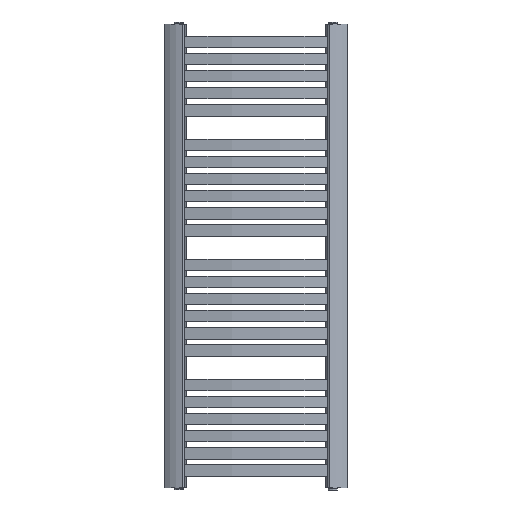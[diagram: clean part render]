
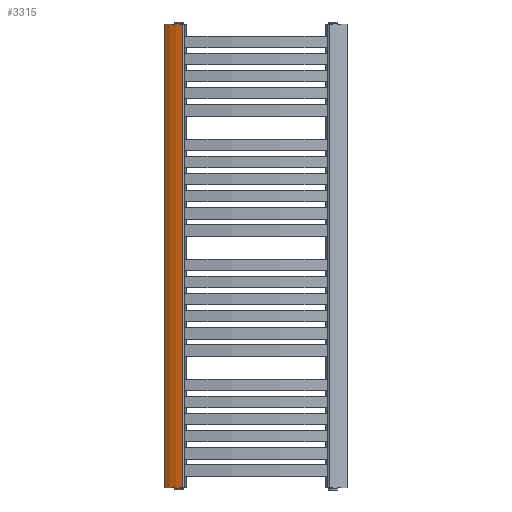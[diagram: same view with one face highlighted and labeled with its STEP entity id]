
A CAD part, left-side view. The second image highlights one B-rep face of the part: STEP entity #3315.
In plain terms, the highlighted cylindrical face has radius 101.419 mm (diameter 202.839 mm), a partial arc.
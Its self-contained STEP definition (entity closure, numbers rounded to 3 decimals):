
#257=CIRCLE('',#3551,101.419);
#258=CIRCLE('',#3552,101.419);
#304=CYLINDRICAL_SURFACE('',#3550,101.419);
#442=FACE_OUTER_BOUND('',#627,.T.);
#627=EDGE_LOOP('',(#2795,#2796,#2797,#2798));
#1027=LINE('',#5274,#1403);
#1033=LINE('',#5301,#1409);
#1403=VECTOR('',#4278,10.);
#1409=VECTOR('',#4310,10.);
#1681=VERTEX_POINT('',#5267);
#1684=VERTEX_POINT('',#5272);
#1691=VERTEX_POINT('',#5297);
#1692=VERTEX_POINT('',#5299);
#2092=EDGE_CURVE('',#1681,#1684,#1027,.T.);
#2104=EDGE_CURVE('',#1691,#1681,#257,.T.);
#2105=EDGE_CURVE('',#1692,#1684,#258,.T.);
#2106=EDGE_CURVE('',#1691,#1692,#1033,.T.);
#2795=ORIENTED_EDGE('',*,*,#2104,.T.);
#2796=ORIENTED_EDGE('',*,*,#2092,.T.);
#2797=ORIENTED_EDGE('',*,*,#2105,.F.);
#2798=ORIENTED_EDGE('',*,*,#2106,.F.);
#3315=ADVANCED_FACE('',(#442),#304,.T.);
#3550=AXIS2_PLACEMENT_3D('',#5296,#4304,#4305);
#3551=AXIS2_PLACEMENT_3D('',#5298,#4306,#4307);
#3552=AXIS2_PLACEMENT_3D('',#5300,#4308,#4309);
#4278=DIRECTION('',(0.,0.,1.));
#4304=DIRECTION('center_axis',(0.,0.,1.));
#4305=DIRECTION('ref_axis',(1.,-0.015,0.));
#4306=DIRECTION('center_axis',(0.,0.,1.));
#4307=DIRECTION('ref_axis',(1.,-0.015,0.));
#4308=DIRECTION('center_axis',(0.,0.,1.));
#4309=DIRECTION('ref_axis',(1.,-0.015,0.));
#4310=DIRECTION('',(0.,0.,1.));
#5267=CARTESIAN_POINT('',(5.308,22.798,0.));
#5272=CARTESIAN_POINT('',(5.308,22.798,1216.));
#5274=CARTESIAN_POINT('',(5.308,22.798,0.));
#5296=CARTESIAN_POINT('Origin',(-84.408,-24.499,0.));
#5297=CARTESIAN_POINT('',(17.,-26.062,0.));
#5298=CARTESIAN_POINT('Origin',(-84.408,-24.499,0.));
#5299=CARTESIAN_POINT('',(17.,-26.062,1216.));
#5300=CARTESIAN_POINT('Origin',(-84.408,-24.499,1216.));
#5301=CARTESIAN_POINT('',(17.,-26.062,0.));
